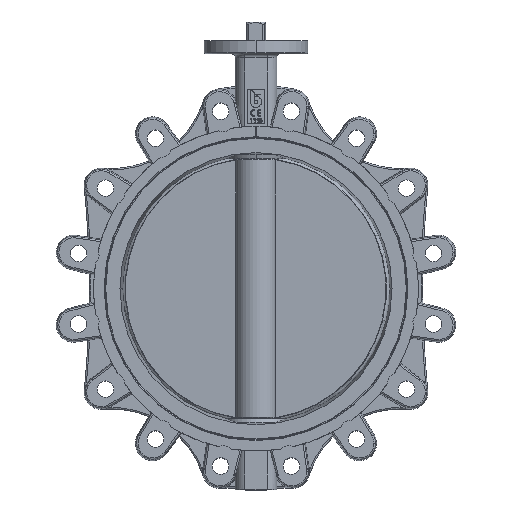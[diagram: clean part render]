
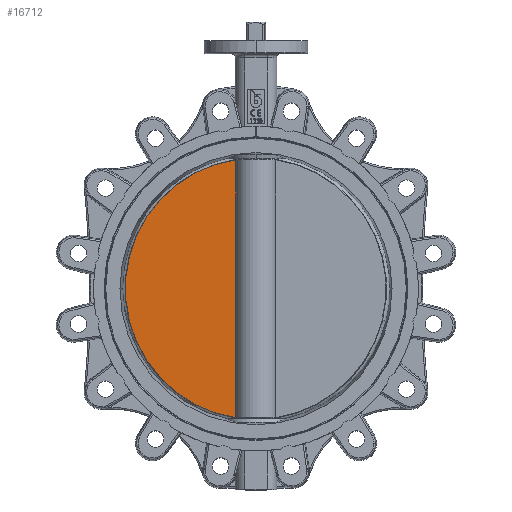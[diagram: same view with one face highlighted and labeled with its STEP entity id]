
A CAD part, top view. The second image highlights one B-rep face of the part: STEP entity #16712.
In plain terms, the highlighted planar face has unit normal (-0.056, 0, 0.998).
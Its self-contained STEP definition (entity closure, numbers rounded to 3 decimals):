
#294 = ORIENTED_EDGE ( 'NONE', *, *, #18470, .T. ) ;
#1895 = B_SPLINE_CURVE_WITH_KNOTS ( 'NONE', 3,
 ( #32507, #21155, #23972, #12788 ),
 .UNSPECIFIED., .F., .F.,
 ( 4, 4 ),
 ( 0., 0.001 ),
 .UNSPECIFIED. ) ;
#2754 = VECTOR ( 'NONE', #28885, 1000. ) ;
#3175 = ORIENTED_EDGE ( 'NONE', *, *, #21118, .T. ) ;
#3237 = CARTESIAN_POINT ( 'NONE',  ( -29.052, -187.134, 6.389 ) ) ;
#6832 = FACE_OUTER_BOUND ( 'NONE', #30676, .T. ) ;
#8104 = EDGE_CURVE ( 'NONE', #17366, #10752, #12948, .T. ) ;
#8485 = PLANE ( 'NONE',  #19210 ) ;
#8937 = ORIENTED_EDGE ( 'NONE', *, *, #22185, .T. ) ;
#9861 = B_SPLINE_CURVE_WITH_KNOTS ( 'NONE', 3,
 ( #25431, #3237, #17258, #28592 ),
 .UNSPECIFIED., .F., .F.,
 ( 4, 4 ),
 ( 0., 0.001 ),
 .UNSPECIFIED. ) ;
#10752 = VERTEX_POINT ( 'NONE', #17205 ) ;
#11294 = CARTESIAN_POINT ( 'NONE',  ( -0.446, 0., 7.988 ) ) ;
#12313 = VERTEX_POINT ( 'NONE', #27108 ) ;
#12788 = CARTESIAN_POINT ( 'NONE',  ( -28.92, 187.261, 6.397 ) ) ;
#12948 = CIRCLE ( 'NONE', #18680, 189.42 ) ;
#14086 = DIRECTION ( 'NONE',  ( 0., 1., 0. ) ) ;
#14732 = VERTEX_POINT ( 'NONE', #28172 ) ;
#16712 = ADVANCED_FACE ( 'NONE', ( #6832 ), #8485, .T. ) ;
#17205 = CARTESIAN_POINT ( 'NONE',  ( -28.92, 187.261, 6.397 ) ) ;
#17258 = CARTESIAN_POINT ( 'NONE',  ( -29.183, -187.007, 6.382 ) ) ;
#17366 = VERTEX_POINT ( 'NONE', #26998 ) ;
#18470 = EDGE_CURVE ( 'NONE', #14732, #12313, #35036, .T. ) ;
#18637 = ORIENTED_EDGE ( 'NONE', *, *, #8104, .F. ) ;
#18680 = AXIS2_PLACEMENT_3D ( 'NONE', #19109, #21677, #18880 ) ;
#18880 = DIRECTION ( 'NONE',  ( 0., -1., 0. ) ) ;
#19109 = CARTESIAN_POINT ( 'NONE',  ( -0.446, 0., 7.988 ) ) ;
#19210 = AXIS2_PLACEMENT_3D ( 'NONE', #11294, #30757, #14086 ) ;
#20212 = CARTESIAN_POINT ( 'NONE',  ( -29.315, 225., 6.375 ) ) ;
#21118 = EDGE_CURVE ( 'NONE', #17366, #14732, #9861, .T. ) ;
#21155 = CARTESIAN_POINT ( 'NONE',  ( -29.183, 187.007, 6.382 ) ) ;
#21677 = DIRECTION ( 'NONE',  ( 0.056, 0., -0.998 ) ) ;
#22185 = EDGE_CURVE ( 'NONE', #12313, #10752, #1895, .T. ) ;
#23972 = CARTESIAN_POINT ( 'NONE',  ( -29.052, 187.134, 6.389 ) ) ;
#25431 = CARTESIAN_POINT ( 'NONE',  ( -28.92, -187.261, 6.397 ) ) ;
#26998 = CARTESIAN_POINT ( 'NONE',  ( -28.92, -187.261, 6.397 ) ) ;
#27108 = CARTESIAN_POINT ( 'NONE',  ( -29.315, 186.88, 6.375 ) ) ;
#28172 = CARTESIAN_POINT ( 'NONE',  ( -29.315, -186.88, 6.375 ) ) ;
#28592 = CARTESIAN_POINT ( 'NONE',  ( -29.315, -186.88, 6.375 ) ) ;
#28885 = DIRECTION ( 'NONE',  ( 0., 1., 0. ) ) ;
#30676 = EDGE_LOOP ( 'NONE', ( #18637, #3175, #294, #8937 ) ) ;
#30757 = DIRECTION ( 'NONE',  ( -0.056, 0., 0.998 ) ) ;
#32507 = CARTESIAN_POINT ( 'NONE',  ( -29.315, 186.88, 6.375 ) ) ;
#35036 = LINE ( 'NONE', #20212, #2754 ) ;
